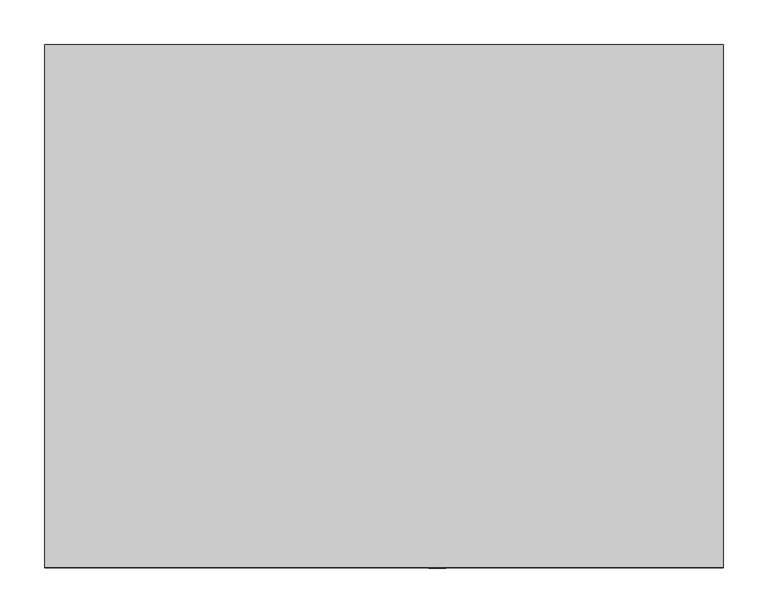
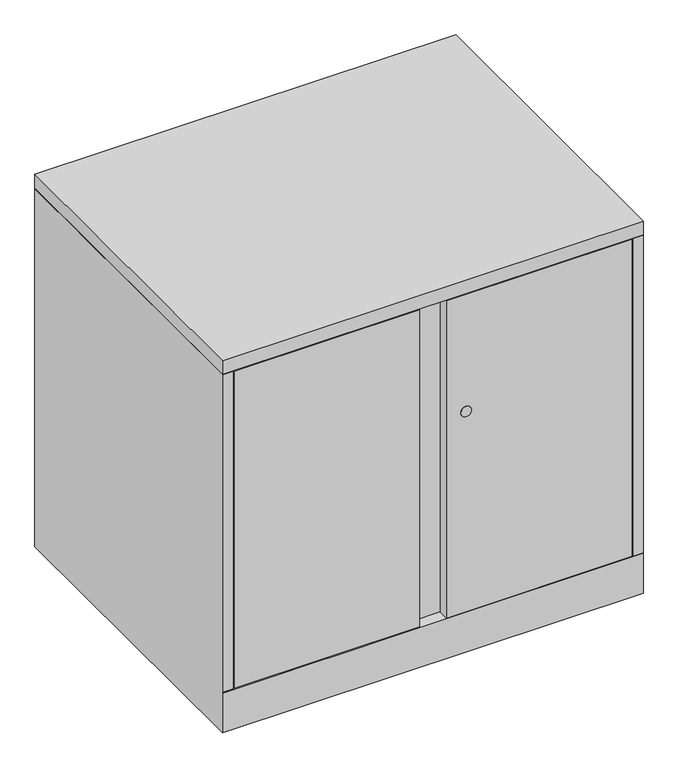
"""IFC4 building model written with IfcOpenShell, lengths in millimetres: furniture geometry, Steelcase - Universal Storage - Cabinet - Storage - 28H - Flush Steel : 23 1/8D x 30W."""

from ifc_helpers import new_model, si_unit, point, frame, frame_2d, origin, place, context, project, spatial, polyline, circle_curve, trimmed, segment, composite_curve, outline, extrude, faceted_brep, source, transform, mapped, element, save


def furniture_3ae60792(model_context):
    return source(origin(), model_context, "Body", "SolidModel", [
        extrude(outline(polyline([(762.0, 0.0), (762.0, -587.502), (0.0, -587.502), (0.0, 0.0), (762.0, 0.0)])), frame((0.0, 0.0, 685.7999516), z_axis=(0.0, 0.0, 1.0), x_axis=(1.0, 0.0, 0.0)), (0.0, 0.0, 1.0), 25.4),
        extrude(outline(composite_curve([segment(trimmed(circle_curve(frame_2d((460.3889832, 440.8109835)), 9.7167829), [point((460.3889832, 450.5277664))], [point((460.3889832, 431.0942006))], False, "CARTESIAN"), True, "CONTINUOUS"), segment(trimmed(circle_curve(frame_2d((460.3889832, 440.8109835)), 9.7167829), [point((460.3889832, 431.0942006))], [point((460.3889832, 450.5277664))], False, "CARTESIAN"), True, "CONTINUOUS")], self_intersect=False)), frame((0.0, -588.1715275, 0.0), z_axis=(0.0, 1.0, 0.0), x_axis=(0.0, 0.0, 1.0)), (0.0, 0.0, 1.0), 0.6695275),
        extrude(outline(polyline([(20.8280006, -561.975866), (741.172, -561.975866), (741.172, -587.502), (405.13, -587.502), (405.13, -568.3258781), (356.87, -568.3258781), (356.87, -587.502), (20.8280006, -587.502), (20.8280006, -561.975866)])), frame((0.0, 0.0, 77.724), z_axis=(0.0, 0.0, 1.0), x_axis=(1.0, 0.0, 0.0)), (0.0, 0.0, 1.0), 606.552),
        faceted_brep([(762.0, 0.0, 0.0), (762.0, -587.502, 0.0), (0.0, -587.502, 0.0), (0.0, 0.0, 0.0), (0.0, 0.0, 684.276), (762.0, 0.0, 684.276), (0.0, -587.502, 76.2), (0.0, -587.502, 77.724), (0.0, -587.502, 684.276), (762.0, -587.502, 76.2), (762.0, -587.502, 684.276), (762.0, -587.502, 77.724), (736.6000242, -25.4000008, 684.276), (736.6000242, -560.4518674, 684.276), (741.172, -560.4518674, 684.276), (741.172, -561.9758781, 684.276), (742.696, -561.9758781, 684.276), (742.696, -587.502, 684.276), (19.304, -587.502, 684.276), (19.304, -561.975866, 684.276), (20.8280006, -561.975866, 684.276), (20.8280006, -560.4518674, 684.276), (25.4000008, -560.4518674, 684.276), (25.4000008, -25.4000008, 684.276), (19.304, -587.502, 77.724), (19.304, -568.198, 77.724), (742.696, -587.502, 77.724), (742.696, -568.0718418, 77.724), (736.6000242, -25.4000008, 77.724), (736.6000242, -560.4518674, 77.724), (741.172, -560.4518674, 77.724), (741.172, -561.9758781, 77.724), (742.696, -561.9758781, 77.724), (19.304, -561.975866, 77.724), (20.8280006, -561.975866, 77.724), (20.8280006, -560.4518674, 77.724), (25.4000008, -560.4518674, 77.724), (25.4000008, -25.4000008, 77.724), (25.526134, -561.975866, 77.724), (736.6000242, -561.975866, 77.724)], [[[0, 1, 2, 3]], [[0, 3, 4, 5]], [[4, 3, 2, 6, 7, 8]], [[2, 1, 9, 6]], [[1, 0, 5, 10, 11, 9]], [[12, 13, 14, 15, 16, 17, 10, 5, 4, 8, 18, 19, 20, 21, 22, 23]], [[24, 7, 25]], [[11, 26, 27]], [[13, 12, 28, 29]], [[14, 13, 29, 30]], [[15, 14, 30, 31]], [[16, 15, 31, 32]], [[17, 16, 32, 27, 26]], [[10, 17, 26, 11]], [[18, 8, 7, 24]], [[19, 18, 24, 25, 33]], [[20, 19, 33, 34]], [[21, 20, 34, 35]], [[22, 21, 35, 36]], [[23, 22, 36, 37]], [[12, 23, 37, 28]], [[38, 39, 27, 32, 31, 30, 29, 28, 37, 36, 35, 34, 33, 25]], [[7, 6, 38, 25]], [[39, 38, 6, 9]], [[39, 9, 11, 27]]]),
    ])


if __name__ == "__main__":
    model = new_model("IFC4")
    model_context = context("Model", 3, world=origin())
    ifc_project = project(units=[si_unit("LENGTHUNIT", "METRE", prefix="MILLI")], contexts=[model_context])
    site = spatial("IfcSite", under=ifc_project)
    building = spatial("IfcBuilding", under=site)
    placement = place(None, origin())
    furniture_shape = furniture_3ae60792(model_context)
    element("IfcFurniture", 1, ObjectType="Steelcase - Universal Storage - Cabinet - Storage - 28H - Flush Steel : 23 1/8D x 30W", at=placement, inside=building, context=model_context, shape_type="MappedRepresentation", body=[
        mapped(furniture_shape, transform((0.0, 0.0, 0.0), x_axis=(1.0, 0.0, 0.0), y_axis=(0.0, 1.0, 0.0), z_axis=(0.0, 0.0, 1.0))),
    ])
    save(model, "model.ifc")
